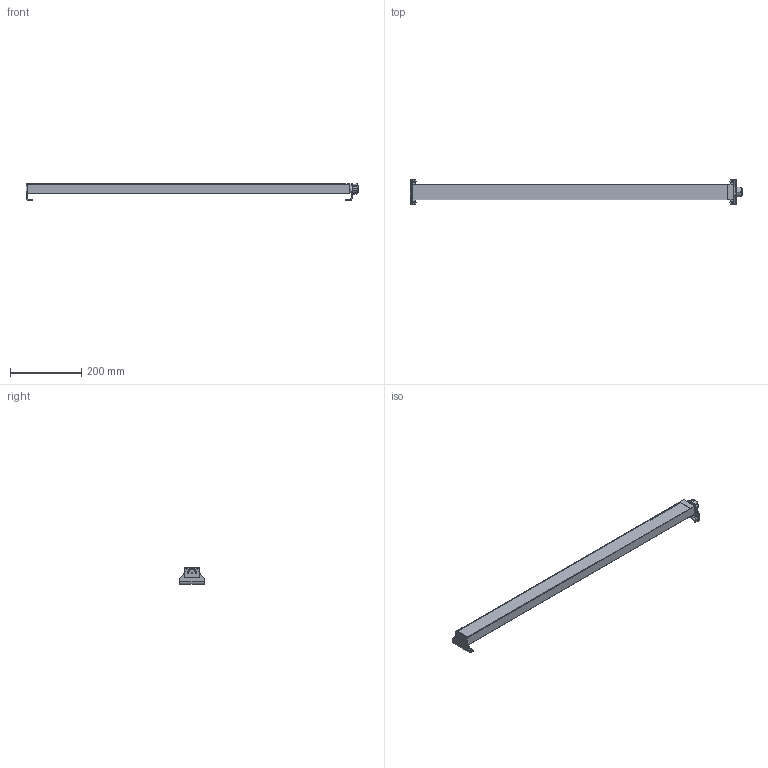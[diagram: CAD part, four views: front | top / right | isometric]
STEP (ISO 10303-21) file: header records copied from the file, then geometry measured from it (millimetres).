
FILE_DESCRIPTION (( 'STEP AP203' ), '1' );
FILE_NAME ('HAL-36-25W-LED.STEP', '2013-10-20T04:22:05', ( 'CAD' ), ( 'Toshiba' ), 'SwSTEP 2.0', 'SolidWorks 2011', '' );
FILE_SCHEMA (( 'CONFIG_CONTROL_DESIGN' ));
Length unit declared in the file: millimetre
Products named in the file (4): HAL-36-25W-LED; foot with cord; foot without cord; HAL-36-25W-LED STEP
Assembly tree (3 placements, depth 2):
  HAL-36-25W-LED
    HAL-36-25W-LED STEP
    foot with cord
    foot without cord
Bounding box: 929.07 x 68.33 x 46.93 mm (x, y, z)
Volume: 1033120.3 mm3; surface area: 158368.5 mm2
Topology: 3 solids, 5 shells, 104 faces, 277 edges, 185 vertices
Faces by surface type: plane 58, cylinder 44, bspline 2
Entity records: 4004 total; most frequent: CARTESIAN_POINT 928, DIRECTION 564, ORIENTED_EDGE 554, EDGE_CURVE 277, AXIS2_PLACEMENT_3D 195, VERTEX_POINT 185, LINE 174, VECTOR 174
